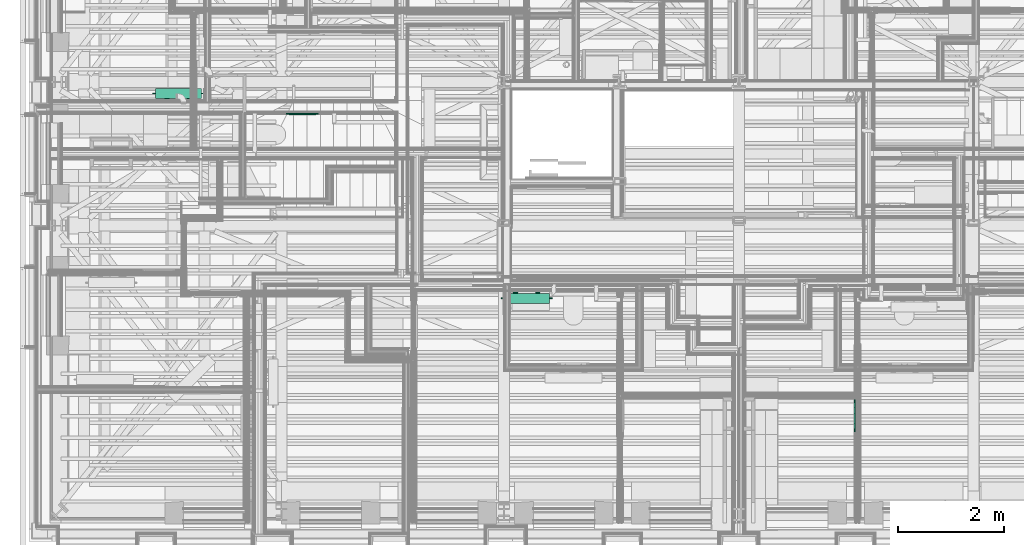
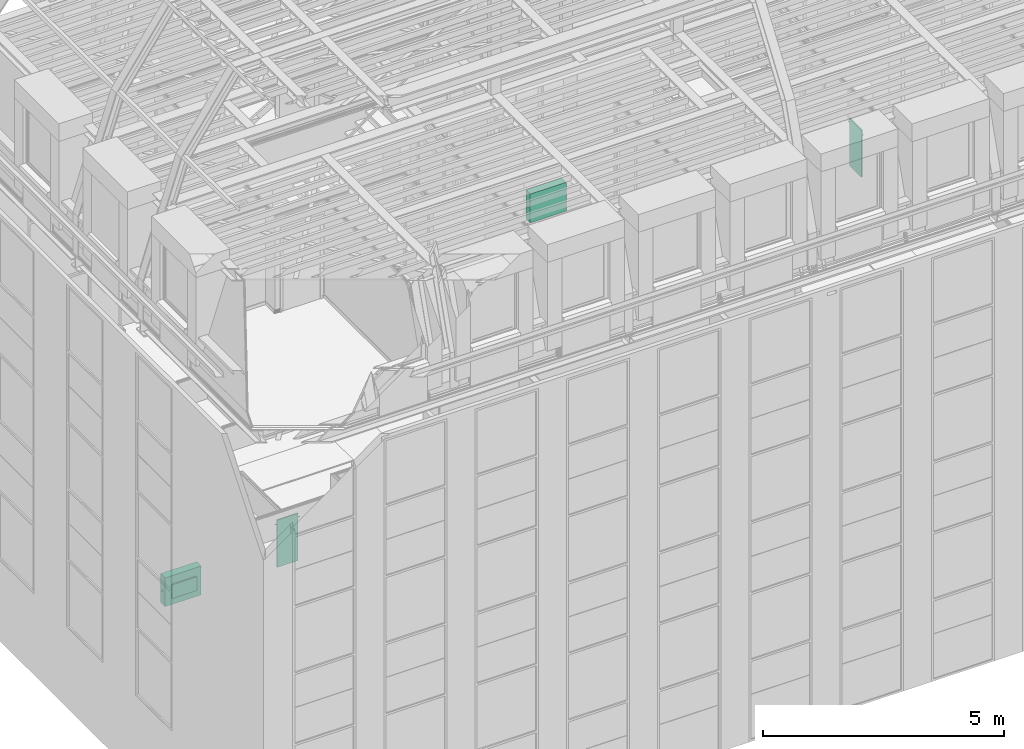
# One storey, part 161 of 183: 4 flow terminals.
"""IFC2X3 building model written with IfcOpenShell, lengths in metres."""

from ifc_helpers import new_model, entity, si_unit, converted_unit, derived_unit, money_unit, direction, frame, origin_with_axes, place, context, subcontext, project, spatial, open_shell, surface_model, material, type_object, element, save


model = new_model("IFC2X3")

# Units and contexts
model_context = context("Model", 3, precision=1e-05, world=origin_with_axes(), true_north=direction((0.0, 1.0)))
body_context = subcontext(model_context, "Body", "Model", "MODEL_VIEW", scale=1.0)
ifc_project = project(units=[si_unit("LENGTHUNIT", "METRE"), si_unit("AREAUNIT", "SQUARE_METRE"), si_unit("VOLUMEUNIT", "CUBIC_METRE"), si_unit("ABSORBEDDOSEUNIT", "GRAY"), si_unit("AMOUNTOFSUBSTANCEUNIT", "MOLE"), si_unit("DOSEEQUIVALENTUNIT", "SIEVERT"), si_unit("ELECTRICCAPACITANCEUNIT", "FARAD"), si_unit("ELECTRICCHARGEUNIT", "COULOMB"), si_unit("ELECTRICCONDUCTANCEUNIT", "SIEMENS"), si_unit("ELECTRICCURRENTUNIT", "AMPERE"), si_unit("ELECTRICRESISTANCEUNIT", "OHM"), si_unit("ELECTRICVOLTAGEUNIT", "VOLT"), si_unit("ENERGYUNIT", "JOULE"), si_unit("FORCEUNIT", "NEWTON"), si_unit("FREQUENCYUNIT", "HERTZ"), si_unit("ILLUMINANCEUNIT", "LUX"), si_unit("INDUCTANCEUNIT", "HENRY"), si_unit("LUMINOUSFLUXUNIT", "LUMEN"), si_unit("LUMINOUSINTENSITYUNIT", "CANDELA"), si_unit("MAGNETICFLUXDENSITYUNIT", "TESLA"), si_unit("MAGNETICFLUXUNIT", "WEBER"), si_unit("MASSUNIT", "GRAM"), converted_unit("PLANEANGLEUNIT", "degree", entity("IfcReal", 0.0174532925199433), si_unit("PLANEANGLEUNIT", "RADIAN"), dimensions=[0, 0, 0, 0, 0, 0, 0]), si_unit("POWERUNIT", "WATT"), si_unit("PRESSUREUNIT", "PASCAL"), si_unit("RADIOACTIVITYUNIT", "BECQUEREL"), si_unit("SOLIDANGLEUNIT", "STERADIAN"), si_unit("THERMODYNAMICTEMPERATUREUNIT", "KELVIN"), si_unit("TIMEUNIT", "SECOND"), derived_unit("ACCELERATIONUNIT", [(si_unit("LENGTHUNIT", "METRE"), 1), (si_unit("TIMEUNIT", "SECOND"), -2)]), derived_unit("ANGULARVELOCITYUNIT", [(converted_unit("PLANEANGLEUNIT", "degree", entity("IfcReal", 0.0174532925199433), si_unit("PLANEANGLEUNIT", "RADIAN"), dimensions=[0, 0, 0, 0, 0, 0, 0]), 1), (si_unit("TIMEUNIT", "SECOND"), -1)]), derived_unit("CURVATUREUNIT", [(converted_unit("PLANEANGLEUNIT", "degree", entity("IfcReal", 0.0174532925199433), si_unit("PLANEANGLEUNIT", "RADIAN"), dimensions=[0, 0, 0, 0, 0, 0, 0]), 1), (si_unit("LENGTHUNIT", "METRE"), -1)]), derived_unit("DYNAMICVISCOSITYUNIT", [(si_unit("PRESSUREUNIT", "PASCAL"), 1), (si_unit("TIMEUNIT", "SECOND"), 1)]), derived_unit("HEATFLUXDENSITYUNIT", [(si_unit("POWERUNIT", "WATT"), 1), (si_unit("LENGTHUNIT", "METRE"), -2)]), derived_unit("HEATINGVALUEUNIT", [(si_unit("ENERGYUNIT", "JOULE"), 1), (si_unit("MASSUNIT", "GRAM"), -1)]), derived_unit("INTEGERCOUNTRATEUNIT", [(si_unit("TIMEUNIT", "SECOND"), -1)]), derived_unit("IONCONCENTRATIONUNIT", [(si_unit("MASSUNIT", "GRAM"), 1), (si_unit("VOLUMEUNIT", "CUBIC_METRE"), -1)]), derived_unit("ISOTHERMALMOISTURECAPACITYUNIT", [(si_unit("VOLUMEUNIT", "CUBIC_METRE"), 1), (si_unit("MASSUNIT", "GRAM"), -1)]), derived_unit("KINEMATICVISCOSITYUNIT", [(si_unit("AREAUNIT", "SQUARE_METRE"), 1), (si_unit("TIMEUNIT", "SECOND"), -1)]), derived_unit("LINEARFORCEUNIT", [(si_unit("FORCEUNIT", "NEWTON"), 1), (si_unit("LENGTHUNIT", "METRE"), -1)]), derived_unit("LINEARMOMENTUNIT", [(si_unit("FORCEUNIT", "NEWTON"), 1), (si_unit("LENGTHUNIT", "METRE"), -1)]), derived_unit("LINEARSTIFFNESSUNIT", [(si_unit("FORCEUNIT", "NEWTON"), 1), (si_unit("LENGTHUNIT", "METRE"), -1)]), derived_unit("LINEARVELOCITYUNIT", [(si_unit("LENGTHUNIT", "METRE"), 1), (si_unit("TIMEUNIT", "SECOND"), -1)]), derived_unit("LUMINOUSINTENSITYDISTRIBUTIONUNIT", [(si_unit("LUMINOUSINTENSITYUNIT", "CANDELA"), 1), (si_unit("LUMINOUSFLUXUNIT", "LUMEN"), -1)]), derived_unit("MASSDENSITYUNIT", [(si_unit("MASSUNIT", "GRAM"), 1), (si_unit("VOLUMEUNIT", "CUBIC_METRE"), -1)]), derived_unit("MASSFLOWRATEUNIT", [(si_unit("MASSUNIT", "GRAM"), 1), (si_unit("TIMEUNIT", "SECOND"), -1)]), derived_unit("MASSPERLENGTHUNIT", [(si_unit("MASSUNIT", "GRAM"), 1), (si_unit("LENGTHUNIT", "METRE"), -1)]), derived_unit("MODULUSOFELASTICITYUNIT", [(si_unit("FORCEUNIT", "NEWTON"), 1), (si_unit("AREAUNIT", "SQUARE_METRE"), -1)]), derived_unit("MODULUSOFLINEARSUBGRADEREACTIONUNIT", [(si_unit("FORCEUNIT", "NEWTON"), 1), (si_unit("LENGTHUNIT", "METRE"), -2)]), derived_unit("MODULUSOFROTATIONALSUBGRADEREACTIONUNIT", [(si_unit("FORCEUNIT", "NEWTON"), 1), (si_unit("LENGTHUNIT", "METRE"), 1)]), derived_unit("MODULUSOFSUBGRADEREACTIONUNIT", [(si_unit("FORCEUNIT", "NEWTON"), 1), (si_unit("VOLUMEUNIT", "CUBIC_METRE"), -1)]), derived_unit("MOISTUREDIFFUSIVITYUNIT", [(si_unit("VOLUMEUNIT", "CUBIC_METRE"), 1), (si_unit("TIMEUNIT", "SECOND"), -1)]), derived_unit("MOLECULARWEIGHTUNIT", [(si_unit("MASSUNIT", "GRAM"), 1), (si_unit("AMOUNTOFSUBSTANCEUNIT", "MOLE"), -1)]), derived_unit("PLANARFORCEUNIT", [(si_unit("FORCEUNIT", "NEWTON"), 1), (si_unit("LENGTHUNIT", "METRE"), -2)]), derived_unit("ROTATIONALFREQUENCYUNIT", [(si_unit("TIMEUNIT", "SECOND"), -1)]), derived_unit("ROTATIONALMASSUNIT", [(si_unit("MASSUNIT", "GRAM"), 1), (si_unit("LENGTHUNIT", "METRE"), 2)]), derived_unit("ROTATIONALSTIFFNESSUNIT", [(si_unit("FORCEUNIT", "NEWTON"), 1), (si_unit("LENGTHUNIT", "METRE"), 1), (converted_unit("PLANEANGLEUNIT", "degree", entity("IfcReal", 0.0174532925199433), si_unit("PLANEANGLEUNIT", "RADIAN"), dimensions=[0, 0, 0, 0, 0, 0, 0]), -1)]), derived_unit("SECTIONAREAINTEGRALUNIT", [(si_unit("LENGTHUNIT", "METRE"), 5)]), derived_unit("SECTIONMODULUSUNIT", [(si_unit("LENGTHUNIT", "METRE"), 3)]), derived_unit("SHEARMODULUSUNIT", [(si_unit("FORCEUNIT", "NEWTON"), 1), (si_unit("AREAUNIT", "SQUARE_METRE"), -1)]), derived_unit("SOUNDPOWERUNIT", [(si_unit("ENERGYUNIT", "JOULE"), 1), (si_unit("TIMEUNIT", "SECOND"), -1)]), derived_unit("SPECIFICHEATCAPACITYUNIT", [(si_unit("FORCEUNIT", "NEWTON"), 1), (si_unit("MASSUNIT", "GRAM"), -1), (si_unit("THERMODYNAMICTEMPERATUREUNIT", "KELVIN"), -1)]), derived_unit("TEMPERATUREGRADIENTUNIT", [(si_unit("THERMODYNAMICTEMPERATUREUNIT", "KELVIN"), 1), (si_unit("LENGTHUNIT", "METRE"), -1)]), derived_unit("THERMALADMITTANCEUNIT", [(si_unit("POWERUNIT", "WATT"), 1), (si_unit("AREAUNIT", "SQUARE_METRE"), -1), (si_unit("THERMODYNAMICTEMPERATUREUNIT", "KELVIN"), -1)]), derived_unit("THERMALCONDUCTANCEUNIT", [(si_unit("POWERUNIT", "WATT"), 1), (si_unit("LENGTHUNIT", "METRE"), -1), (si_unit("THERMODYNAMICTEMPERATUREUNIT", "KELVIN"), -1)]), derived_unit("THERMALEXPANSIONCOEFFICIENTUNIT", [(si_unit("THERMODYNAMICTEMPERATUREUNIT", "KELVIN"), -1)]), derived_unit("THERMALRESISTANCEUNIT", [(si_unit("AREAUNIT", "SQUARE_METRE"), 1), (si_unit("POWERUNIT", "WATT"), -1)]), derived_unit("THERMALTRANSMITTANCEUNIT", [(si_unit("POWERUNIT", "WATT"), 1), (si_unit("AREAUNIT", "SQUARE_METRE"), -1), (si_unit("THERMODYNAMICTEMPERATUREUNIT", "KELVIN"), -1)]), derived_unit("TORQUEUNIT", [(si_unit("FORCEUNIT", "NEWTON"), 1), (si_unit("LENGTHUNIT", "METRE"), 1)]), derived_unit("VAPORPERMEABILITYUNIT", [(si_unit("MASSUNIT", "GRAM"), 1), (si_unit("TIMEUNIT", "SECOND"), -1)]), derived_unit("VOLUMETRICFLOWRATEUNIT", [(si_unit("VOLUMEUNIT", "CUBIC_METRE"), 1), (si_unit("TIMEUNIT", "SECOND"), -1)]), derived_unit("WARPINGCONSTANTUNIT", [(si_unit("LENGTHUNIT", "METRE"), 6)]), derived_unit("WARPINGMOMENTUNIT", [(si_unit("FORCEUNIT", "NEWTON"), 1), (si_unit("LENGTHUNIT", "METRE"), 2)]), money_unit("GBP")], contexts=[model_context])

# Site, building, storey, space
site_placement = place(None, origin_with_axes())
site = spatial("IfcSite", under=ifc_project, at=site_placement, Name="Site", CompositionType="ELEMENT")
building_placement = place(site_placement, origin_with_axes())
building = spatial("IfcBuilding", under=site, at=building_placement, Name="Building01", CompositionType="ELEMENT")
storey_placement = place(building_placement, frame((0.0, 0.0, 5.15), z_axis=(0.0, 0.0, 1.0), x_axis=(1.0, 0.0, 0.0)))
storey = spatial("IfcBuildingStorey", under=building, at=storey_placement, Name="1F", CompositionType="ELEMENT", Elevation=5.15)
space_1_placement = place(storey_placement, frame((7.064669, 14.582, 0.017975), z_axis=(0.0, 0.0, 1.0), x_axis=(-1.0, 0.0, 0.0)))
space_1 = spatial("IfcSpace", under=storey, at=space_1_placement, Name="07", CompositionType="ELEMENT", InteriorOrExteriorSpace="NOTDEFINED")

# Flow terminal
ifc_material = material(Name="M_BSUK_Ventilation")
space_heater_type_1 = type_object("IfcSpaceHeaterType", Name="M-BmvRadiatorpanel-Panel", PredefinedType="NOTDEFINED")
flow_terminal_1_placement = place(storey_placement, frame((2.540669, 8.58092, 0.665), z_axis=(0.0, 0.0, 1.0), x_axis=(-1.0, 0.0, 0.0)))
element("IfcFlowTerminal", 1, at=flow_terminal_1_placement, inside=space_1, type_object=space_heater_type_1, material=ifc_material, Name="M-BmvRadiatorpanel-Panel", ObjectType="M-BmvRadiatorpanel-Panel", context=body_context, shape_type="SurfaceModel", body=[
    surface_model("IfcShellBasedSurfaceModel", [(-0.865, -0.0925, 0.365), (-0.865, 0.0925, 0.365), (0.0, 0.0925, 0.365), (0.0, -0.0925, 0.365), (-0.865, -0.0925, -0.365), (-0.865, 0.0925, -0.365), (0.0, -0.0925, -0.365), (0.0, 0.0925, -0.365), (-0.1325, 0.12025, 0.175), (-0.7325, 0.12025, 0.175), (-0.7325, 0.14525, 0.175), (-0.1325, 0.14525, 0.175), (-0.7325, 0.14525, -0.175), (-0.1325, 0.14525, -0.175), (-0.7325, 0.12025, -0.175), (-0.1325, 0.12025, -0.175), (-0.2225, 0.0925, 0.0775), (-0.2225, 0.12025, 0.0775), (-0.205279, 0.12025, 0.080925), (-0.205279, 0.0925, 0.080925), (-0.19068, 0.12025, 0.09068), (-0.19068, 0.0925, 0.09068), (-0.180925, 0.12025, 0.105279), (-0.180925, 0.0925, 0.105279), (-0.1775, 0.12025, 0.1225), (-0.1775, 0.0925, 0.1225), (-0.180925, 0.12025, 0.139721), (-0.180925, 0.0925, 0.139721), (-0.19068, 0.12025, 0.15432), (-0.19068, 0.0925, 0.15432), (-0.205279, 0.12025, 0.164075), (-0.205279, 0.0925, 0.164075), (-0.2225, 0.12025, 0.1675), (-0.2225, 0.0925, 0.1675), (-0.239721, 0.12025, 0.164075), (-0.239721, 0.0925, 0.164075), (-0.25432, 0.12025, 0.15432), (-0.25432, 0.0925, 0.15432), (-0.264075, 0.12025, 0.139721), (-0.264075, 0.0925, 0.139721), (-0.2675, 0.12025, 0.1225), (-0.2675, 0.0925, 0.1225), (-0.264075, 0.12025, 0.105279), (-0.264075, 0.0925, 0.105279), (-0.25432, 0.12025, 0.09068), (-0.25432, 0.0925, 0.09068), (-0.239721, 0.12025, 0.080925), (-0.239721, 0.0925, 0.080925), (-0.6425, 0.0925, 0.0775), (-0.6425, 0.12025, 0.0775), (-0.625279, 0.12025, 0.080925), (-0.625279, 0.0925, 0.080925), (-0.61068, 0.12025, 0.09068), (-0.61068, 0.0925, 0.09068), (-0.600925, 0.12025, 0.105279), (-0.600925, 0.0925, 0.105279), (-0.5975, 0.12025, 0.1225), (-0.5975, 0.0925, 0.1225), (-0.600925, 0.12025, 0.139721), (-0.600925, 0.0925, 0.139721), (-0.61068, 0.12025, 0.15432), (-0.61068, 0.0925, 0.15432), (-0.625279, 0.12025, 0.164075), (-0.625279, 0.0925, 0.164075), (-0.6425, 0.12025, 0.1675), (-0.6425, 0.0925, 0.1675), (-0.659721, 0.12025, 0.164075), (-0.659721, 0.0925, 0.164075), (-0.67432, 0.12025, 0.15432), (-0.67432, 0.0925, 0.15432), (-0.684075, 0.12025, 0.139721), (-0.684075, 0.0925, 0.139721), (-0.6875, 0.12025, 0.1225), (-0.6875, 0.0925, 0.1225), (-0.684075, 0.12025, 0.105279), (-0.684075, 0.0925, 0.105279), (-0.67432, 0.12025, 0.09068), (-0.67432, 0.0925, 0.09068), (-0.659721, 0.12025, 0.080925), (-0.659721, 0.0925, 0.080925), (0.05, 0.0, -0.0225), (0.0, 0.0, -0.0225), (0.0, 0.004784, -0.021548), (0.05, 0.004784, -0.021548), (0.0, 0.008839, -0.018839), (0.05, 0.008839, -0.018839), (0.0, 0.011548, -0.014784), (0.05, 0.011548, -0.014784), (0.0, 0.0125, -0.01), (0.05, 0.0125, -0.01), (0.0, 0.011548, -0.005216), (0.05, 0.011548, -0.005216), (0.0, 0.008839, -0.001161), (0.05, 0.008839, -0.001161), (0.0, 0.004784, 0.001548), (0.05, 0.004784, 0.001548), (0.0, 0.0, 0.0025), (0.05, 0.0, 0.0025), (0.0, -0.004784, 0.001548), (0.05, -0.004784, 0.001548), (0.0, -0.008839, -0.001161), (0.05, -0.008839, -0.001161), (0.0, -0.011548, -0.005216), (0.05, -0.011548, -0.005216), (0.0, -0.0125, -0.01), (0.05, -0.0125, -0.01), (0.0, -0.011548, -0.014784), (0.05, -0.011548, -0.014784), (0.0, -0.008839, -0.018839), (0.05, -0.008839, -0.018839), (0.0, -0.004784, -0.021548), (0.05, -0.004784, -0.021548), (-0.915, 0.0, 0.2525), (-0.865, 0.0, 0.2525), (-0.865, -0.004784, 0.253452), (-0.915, -0.004784, 0.253452), (-0.865, -0.008839, 0.256161), (-0.915, -0.008839, 0.256161), (-0.865, -0.011548, 0.260216), (-0.915, -0.011548, 0.260216), (-0.865, -0.0125, 0.265), (-0.915, -0.0125, 0.265), (-0.865, -0.011548, 0.269784), (-0.915, -0.011548, 0.269784), (-0.865, -0.008839, 0.273839), (-0.915, -0.008839, 0.273839), (-0.865, -0.004784, 0.276548), (-0.915, -0.004784, 0.276548), (-0.865, 0.0, 0.2775), (-0.915, 0.0, 0.2775), (-0.865, 0.004784, 0.276548), (-0.915, 0.004784, 0.276548), (-0.865, 0.008839, 0.273839), (-0.915, 0.008839, 0.273839), (-0.865, 0.011548, 0.269784), (-0.915, 0.011548, 0.269784), (-0.865, 0.0125, 0.265), (-0.915, 0.0125, 0.265), (-0.865, 0.011548, 0.260216), (-0.915, 0.011548, 0.260216), (-0.865, 0.008839, 0.256161), (-0.915, 0.008839, 0.256161), (-0.865, 0.004784, 0.253452), (-0.915, 0.004784, 0.253452)], [open_shell([[[0, 1, 2, 3]], [[4, 5, 1, 0]], [[6, 7, 5, 4]], [[3, 2, 7, 6]], [[1, 5, 7, 2]], [[3, 6, 4, 0]], [[8, 9, 10, 11]], [[11, 10, 12, 13]], [[13, 12, 14, 15]], [[15, 14, 9, 8]], [[9, 14, 12, 10]], [[11, 13, 15, 8]], [[16, 17, 18, 19]], [[19, 18, 20, 21]], [[21, 20, 22, 23]], [[23, 22, 24, 25]], [[25, 24, 26, 27]], [[27, 26, 28, 29]], [[29, 28, 30, 31]], [[31, 30, 32, 33]], [[33, 32, 34, 35]], [[35, 34, 36, 37]], [[37, 36, 38, 39]], [[39, 38, 40, 41]], [[41, 40, 42, 43]], [[43, 42, 44, 45]], [[45, 44, 46, 47]], [[47, 46, 17, 16]], [[48, 49, 50, 51]], [[51, 50, 52, 53]], [[53, 52, 54, 55]], [[55, 54, 56, 57]], [[57, 56, 58, 59]], [[59, 58, 60, 61]], [[61, 60, 62, 63]], [[63, 62, 64, 65]], [[65, 64, 66, 67]], [[67, 66, 68, 69]], [[69, 68, 70, 71]], [[71, 70, 72, 73]], [[73, 72, 74, 75]], [[75, 74, 76, 77]], [[77, 76, 78, 79]], [[79, 78, 49, 48]], [[80, 81, 82, 83]], [[83, 82, 84, 85]], [[85, 84, 86, 87]], [[87, 86, 88, 89]], [[89, 88, 90, 91]], [[91, 90, 92, 93]], [[93, 92, 94, 95]], [[95, 94, 96, 97]], [[97, 96, 98, 99]], [[99, 98, 100, 101]], [[101, 100, 102, 103]], [[103, 102, 104, 105]], [[105, 104, 106, 107]], [[107, 106, 108, 109]], [[109, 108, 110, 111]], [[111, 110, 81, 80]], [[112, 113, 114, 115]], [[115, 114, 116, 117]], [[117, 116, 118, 119]], [[119, 118, 120, 121]], [[121, 120, 122, 123]], [[123, 122, 124, 125]], [[125, 124, 126, 127]], [[127, 126, 128, 129]], [[129, 128, 130, 131]], [[131, 130, 132, 133]], [[133, 132, 134, 135]], [[135, 134, 136, 137]], [[137, 136, 138, 139]], [[139, 138, 140, 141]], [[141, 140, 142, 143]], [[143, 142, 113, 112]]])]),
])

# Space
space_2_placement = place(storey_placement, frame((12.175, 4.189428, 9.81), z_axis=(0.0, 0.0, 1.0), x_axis=(0.0, 1.0, 0.0)))
space_2 = spatial("IfcSpace", under=storey, at=space_2_placement, Name="25", CompositionType="ELEMENT", InteriorOrExteriorSpace="NOTDEFINED")

# Flow terminal
flow_terminal_2_placement = place(storey_placement, frame((9.0825, 4.73475, 10.445), z_axis=(0.0, 0.0, 1.0), x_axis=(1.0, 0.0, 0.0)))
element("IfcFlowTerminal", 2, at=flow_terminal_2_placement, inside=space_2, type_object=space_heater_type_1, material=ifc_material, Name="M-BmvRadiatorpanel-Panel", ObjectType="M-BmvRadiatorpanel-Panel", context=body_context, shape_type="SurfaceModel", body=[
    surface_model("IfcShellBasedSurfaceModel", [(0.865, -0.0925, 0.365), (0.865, 0.0925, 0.365), (0.0, 0.0925, 0.365), (0.0, -0.0925, 0.365), (0.865, -0.0925, -0.365), (0.865, 0.0925, -0.365), (0.0, -0.0925, -0.365), (0.0, 0.0925, -0.365), (0.1325, 0.12025, 0.175), (0.7325, 0.12025, 0.175), (0.7325, 0.14525, 0.175), (0.1325, 0.14525, 0.175), (0.7325, 0.14525, -0.175), (0.1325, 0.14525, -0.175), (0.7325, 0.12025, -0.175), (0.1325, 0.12025, -0.175), (0.2225, 0.0925, 0.0775), (0.2225, 0.12025, 0.0775), (0.239721, 0.12025, 0.080925), (0.239721, 0.0925, 0.080925), (0.25432, 0.12025, 0.09068), (0.25432, 0.0925, 0.09068), (0.264075, 0.12025, 0.105279), (0.264075, 0.0925, 0.105279), (0.2675, 0.12025, 0.1225), (0.2675, 0.0925, 0.1225), (0.264075, 0.12025, 0.139721), (0.264075, 0.0925, 0.139721), (0.25432, 0.12025, 0.15432), (0.25432, 0.0925, 0.15432), (0.239721, 0.12025, 0.164075), (0.239721, 0.0925, 0.164075), (0.2225, 0.12025, 0.1675), (0.2225, 0.0925, 0.1675), (0.205279, 0.12025, 0.164075), (0.205279, 0.0925, 0.164075), (0.19068, 0.12025, 0.15432), (0.19068, 0.0925, 0.15432), (0.180925, 0.12025, 0.139721), (0.180925, 0.0925, 0.139721), (0.1775, 0.12025, 0.1225), (0.1775, 0.0925, 0.1225), (0.180925, 0.12025, 0.105279), (0.180925, 0.0925, 0.105279), (0.19068, 0.12025, 0.09068), (0.19068, 0.0925, 0.09068), (0.205279, 0.12025, 0.080925), (0.205279, 0.0925, 0.080925), (0.6425, 0.0925, 0.0775), (0.6425, 0.12025, 0.0775), (0.659721, 0.12025, 0.080925), (0.659721, 0.0925, 0.080925), (0.67432, 0.12025, 0.09068), (0.67432, 0.0925, 0.09068), (0.684075, 0.12025, 0.105279), (0.684075, 0.0925, 0.105279), (0.6875, 0.12025, 0.1225), (0.6875, 0.0925, 0.1225), (0.684075, 0.12025, 0.139721), (0.684075, 0.0925, 0.139721), (0.67432, 0.12025, 0.15432), (0.67432, 0.0925, 0.15432), (0.659721, 0.12025, 0.164075), (0.659721, 0.0925, 0.164075), (0.6425, 0.12025, 0.1675), (0.6425, 0.0925, 0.1675), (0.625279, 0.12025, 0.164075), (0.625279, 0.0925, 0.164075), (0.61068, 0.12025, 0.15432), (0.61068, 0.0925, 0.15432), (0.600925, 0.12025, 0.139721), (0.600925, 0.0925, 0.139721), (0.5975, 0.12025, 0.1225), (0.5975, 0.0925, 0.1225), (0.600925, 0.12025, 0.105279), (0.600925, 0.0925, 0.105279), (0.61068, 0.12025, 0.09068), (0.61068, 0.0925, 0.09068), (0.625279, 0.12025, 0.080925), (0.625279, 0.0925, 0.080925), (-0.05, 0.0, -0.0225), (0.0, 0.0, -0.0225), (0.0, -0.004784, -0.021548), (-0.05, -0.004784, -0.021548), (0.0, -0.008839, -0.018839), (-0.05, -0.008839, -0.018839), (0.0, -0.011548, -0.014784), (-0.05, -0.011548, -0.014784), (0.0, -0.0125, -0.01), (-0.05, -0.0125, -0.01), (0.0, -0.011548, -0.005216), (-0.05, -0.011548, -0.005216), (0.0, -0.008839, -0.001161), (-0.05, -0.008839, -0.001161), (0.0, -0.004784, 0.001548), (-0.05, -0.004784, 0.001548), (0.0, 0.0, 0.0025), (-0.05, 0.0, 0.0025), (0.0, 0.004784, 0.001548), (-0.05, 0.004784, 0.001548), (0.0, 0.008839, -0.001161), (-0.05, 0.008839, -0.001161), (0.0, 0.011548, -0.005216), (-0.05, 0.011548, -0.005216), (0.0, 0.0125, -0.01), (-0.05, 0.0125, -0.01), (0.0, 0.011548, -0.014784), (-0.05, 0.011548, -0.014784), (0.0, 0.008839, -0.018839), (-0.05, 0.008839, -0.018839), (0.0, 0.004784, -0.021548), (-0.05, 0.004784, -0.021548), (0.915, 0.0, 0.2525), (0.865, 0.0, 0.2525), (0.865, 0.004784, 0.253452), (0.915, 0.004784, 0.253452), (0.865, 0.008839, 0.256161), (0.915, 0.008839, 0.256161), (0.865, 0.011548, 0.260216), (0.915, 0.011548, 0.260216), (0.865, 0.0125, 0.265), (0.915, 0.0125, 0.265), (0.865, 0.011548, 0.269784), (0.915, 0.011548, 0.269784), (0.865, 0.008839, 0.273839), (0.915, 0.008839, 0.273839), (0.865, 0.004784, 0.276548), (0.915, 0.004784, 0.276548), (0.865, 0.0, 0.2775), (0.915, 0.0, 0.2775), (0.865, -0.004784, 0.276548), (0.915, -0.004784, 0.276548), (0.865, -0.008839, 0.273839), (0.915, -0.008839, 0.273839), (0.865, -0.011548, 0.269784), (0.915, -0.011548, 0.269784), (0.865, -0.0125, 0.265), (0.915, -0.0125, 0.265), (0.865, -0.011548, 0.260216), (0.915, -0.011548, 0.260216), (0.865, -0.008839, 0.256161), (0.915, -0.008839, 0.256161), (0.865, -0.004784, 0.253452), (0.915, -0.004784, 0.253452)], [open_shell([[[0, 1, 2, 3]], [[4, 5, 1, 0]], [[6, 7, 5, 4]], [[3, 2, 7, 6]], [[1, 5, 7, 2]], [[3, 6, 4, 0]], [[8, 9, 10, 11]], [[11, 10, 12, 13]], [[13, 12, 14, 15]], [[15, 14, 9, 8]], [[9, 14, 12, 10]], [[11, 13, 15, 8]], [[16, 17, 18, 19]], [[19, 18, 20, 21]], [[21, 20, 22, 23]], [[23, 22, 24, 25]], [[25, 24, 26, 27]], [[27, 26, 28, 29]], [[29, 28, 30, 31]], [[31, 30, 32, 33]], [[33, 32, 34, 35]], [[35, 34, 36, 37]], [[37, 36, 38, 39]], [[39, 38, 40, 41]], [[41, 40, 42, 43]], [[43, 42, 44, 45]], [[45, 44, 46, 47]], [[47, 46, 17, 16]], [[48, 49, 50, 51]], [[51, 50, 52, 53]], [[53, 52, 54, 55]], [[55, 54, 56, 57]], [[57, 56, 58, 59]], [[59, 58, 60, 61]], [[61, 60, 62, 63]], [[63, 62, 64, 65]], [[65, 64, 66, 67]], [[67, 66, 68, 69]], [[69, 68, 70, 71]], [[71, 70, 72, 73]], [[73, 72, 74, 75]], [[75, 74, 76, 77]], [[77, 76, 78, 79]], [[79, 78, 49, 48]], [[80, 81, 82, 83]], [[83, 82, 84, 85]], [[85, 84, 86, 87]], [[87, 86, 88, 89]], [[89, 88, 90, 91]], [[91, 90, 92, 93]], [[93, 92, 94, 95]], [[95, 94, 96, 97]], [[97, 96, 98, 99]], [[99, 98, 100, 101]], [[101, 100, 102, 103]], [[103, 102, 104, 105]], [[105, 104, 106, 107]], [[107, 106, 108, 109]], [[109, 108, 110, 111]], [[111, 110, 81, 80]], [[112, 113, 114, 115]], [[115, 114, 116, 117]], [[117, 116, 118, 119]], [[119, 118, 120, 121]], [[121, 120, 122, 123]], [[123, 122, 124, 125]], [[125, 124, 126, 127]], [[127, 126, 128, 129]], [[129, 128, 130, 131]], [[131, 130, 132, 133]], [[133, 132, 134, 135]], [[135, 134, 136, 137]], [[137, 136, 138, 139]], [[139, 138, 140, 141]], [[141, 140, 142, 143]], [[143, 142, 113, 112]]])]),
])

# Space
space_3_placement = place(storey_placement, frame((4.24073, 6.606475, 0.017975), z_axis=(0.0, 0.0, 1.0), x_axis=(1.0, 0.0, 0.0)))
space_3 = spatial("IfcSpace", under=storey, at=space_3_placement, Name="bath", CompositionType="ELEMENT", InteriorOrExteriorSpace="NOTDEFINED")

# Flow terminal
space_heater_type_2 = type_object("IfcSpaceHeaterType", Name="M-BmvRadiator-Column", PredefinedType="NOTDEFINED")
flow_terminal_3_placement = place(storey_placement, frame((5.054088, 8.19817, 1.2), z_axis=(0.0, 0.0, 1.0), x_axis=(1.0, 0.0, 0.0)))
element("IfcFlowTerminal", 3, at=flow_terminal_3_placement, inside=space_3, type_object=space_heater_type_2, material=ifc_material, Name="M-BmvRadiator-Column", ObjectType="M-BmvRadiator-Column", context=body_context, shape_type="SurfaceModel", body=[
    surface_model("IfcShellBasedSurfaceModel", [(0.0, -0.0125, 0.6), (0.0, -0.0125, -0.6), (0.0, 0.0125, -0.6), (0.0, 0.0125, 0.6), (0.5, -0.0125, 0.6), (0.5, -0.0125, -0.6), (0.5, 0.0125, -0.6), (0.5, 0.0125, 0.6), (0.1, 0.0125, 0.6), (0.1, -0.0125, 0.6), (0.1, -0.0125, -0.6), (0.1, 0.0125, -0.6), (0.2, 0.0125, 0.6), (0.2, -0.0125, 0.6), (0.2, -0.0125, -0.6), (0.2, 0.0125, -0.6), (0.3, 0.0125, 0.6), (0.3, -0.0125, 0.6), (0.3, -0.0125, -0.6), (0.3, 0.0125, -0.6), (0.4, 0.0125, 0.6), (0.4, -0.0125, 0.6), (0.4, -0.0125, -0.6), (0.4, 0.0125, -0.6), (-0.05, 0.0, 0.4825), (0.0, 0.0, 0.4825), (0.0, -0.003827, 0.483261), (-0.05, -0.003827, 0.483261), (0.0, -0.007071, 0.485429), (-0.05, -0.007071, 0.485429), (0.0, -0.009239, 0.488673), (-0.05, -0.009239, 0.488673), (0.0, -0.01, 0.4925), (-0.05, -0.01, 0.4925), (0.0, -0.009239, 0.496327), (-0.05, -0.009239, 0.496327), (0.0, -0.007071, 0.499571), (-0.05, -0.007071, 0.499571), (0.0, -0.003827, 0.501739), (-0.05, -0.003827, 0.501739), (0.0, 0.0, 0.5025), (-0.05, 0.0, 0.5025), (0.0, 0.003827, 0.501739), (-0.05, 0.003827, 0.501739), (0.0, 0.007071, 0.499571), (-0.05, 0.007071, 0.499571), (0.0, 0.009239, 0.496327), (-0.05, 0.009239, 0.496327), (0.0, 0.01, 0.4925), (-0.05, 0.01, 0.4925), (0.0, 0.009239, 0.488673), (-0.05, 0.009239, 0.488673), (0.0, 0.007071, 0.485429), (-0.05, 0.007071, 0.485429), (0.0, 0.003827, 0.483261), (-0.05, 0.003827, 0.483261), (0.55, 0.0, 0.4884), (0.5, 0.0, 0.4884), (0.5, 0.003827, 0.489161), (0.55, 0.003827, 0.489161), (0.5, 0.007071, 0.491329), (0.55, 0.007071, 0.491329), (0.5, 0.009239, 0.494573), (0.55, 0.009239, 0.494573), (0.5, 0.01, 0.4984), (0.55, 0.01, 0.4984), (0.5, 0.009239, 0.502227), (0.55, 0.009239, 0.502227), (0.5, 0.007071, 0.505471), (0.55, 0.007071, 0.505471), (0.5, 0.003827, 0.507639), (0.55, 0.003827, 0.507639), (0.5, 0.0, 0.5084), (0.55, 0.0, 0.5084), (0.5, -0.003827, 0.507639), (0.55, -0.003827, 0.507639), (0.5, -0.007071, 0.505471), (0.55, -0.007071, 0.505471), (0.5, -0.009239, 0.502227), (0.55, -0.009239, 0.502227), (0.5, -0.01, 0.4984), (0.55, -0.01, 0.4984), (0.5, -0.009239, 0.494573), (0.55, -0.009239, 0.494573), (0.5, -0.007071, 0.491329), (0.55, -0.007071, 0.491329), (0.5, -0.003827, 0.489161), (0.55, -0.003827, 0.489161)], [open_shell([[[0, 1, 2, 3]], [[4, 5, 6, 7]], [[8, 3, 0, 9]], [[9, 0, 1, 10]], [[10, 1, 2, 11]], [[11, 2, 3, 8]], [[12, 8, 9, 13]], [[13, 9, 10, 14]], [[14, 10, 11, 15]], [[15, 11, 8, 12]], [[16, 12, 13, 17]], [[17, 13, 14, 18]], [[18, 14, 15, 19]], [[19, 15, 12, 16]], [[20, 16, 17, 21]], [[21, 17, 18, 22]], [[22, 18, 19, 23]], [[23, 19, 16, 20]], [[7, 20, 21, 4]], [[4, 21, 22, 5]], [[5, 22, 23, 6]], [[6, 23, 20, 7]], [[24, 25, 26, 27]], [[27, 26, 28, 29]], [[29, 28, 30, 31]], [[31, 30, 32, 33]], [[33, 32, 34, 35]], [[35, 34, 36, 37]], [[37, 36, 38, 39]], [[39, 38, 40, 41]], [[41, 40, 42, 43]], [[43, 42, 44, 45]], [[45, 44, 46, 47]], [[47, 46, 48, 49]], [[49, 48, 50, 51]], [[51, 50, 52, 53]], [[53, 52, 54, 55]], [[55, 54, 25, 24]], [[56, 57, 58, 59]], [[59, 58, 60, 61]], [[61, 60, 62, 63]], [[63, 62, 64, 65]], [[65, 64, 66, 67]], [[67, 66, 68, 69]], [[69, 68, 70, 71]], [[71, 70, 72, 73]], [[73, 72, 74, 75]], [[75, 74, 76, 77]], [[77, 76, 78, 79]], [[79, 78, 80, 81]], [[81, 80, 82, 83]], [[83, 82, 84, 85]], [[85, 84, 86, 87]], [[87, 86, 57, 56]]])]),
])

# Space
space_4_placement = place(storey_placement, frame((15.69, 2.869761, 9.81), z_axis=(0.0, 0.0, 1.0), x_axis=(-1.0, 0.0, 0.0)))
space_4 = spatial("IfcSpace", under=storey, at=space_4_placement, Name="ensuite", CompositionType="ELEMENT", InteriorOrExteriorSpace="NOTDEFINED")

# Flow terminal
flow_terminal_4_placement = place(storey_placement, frame((15.6775, 2.780835, 10.965), z_axis=(0.0, 0.0, 1.0), x_axis=(0.0, -1.0, 0.0)))
element("IfcFlowTerminal", 4, at=flow_terminal_4_placement, inside=space_4, type_object=space_heater_type_2, material=ifc_material, Name="M-BmvRadiator-Column", ObjectType="M-BmvRadiator-Column", context=body_context, shape_type="SurfaceModel", body=[
    surface_model("IfcShellBasedSurfaceModel", [(0.0, -0.0125, 0.6), (0.0, -0.0125, -0.6), (0.0, 0.0125, -0.6), (0.0, 0.0125, 0.6), (0.5, -0.0125, 0.6), (0.5, -0.0125, -0.6), (0.5, 0.0125, -0.6), (0.5, 0.0125, 0.6), (0.1, 0.0125, 0.6), (0.1, -0.0125, 0.6), (0.1, -0.0125, -0.6), (0.1, 0.0125, -0.6), (0.2, 0.0125, 0.6), (0.2, -0.0125, 0.6), (0.2, -0.0125, -0.6), (0.2, 0.0125, -0.6), (0.3, 0.0125, 0.6), (0.3, -0.0125, 0.6), (0.3, -0.0125, -0.6), (0.3, 0.0125, -0.6), (0.4, 0.0125, 0.6), (0.4, -0.0125, 0.6), (0.4, -0.0125, -0.6), (0.4, 0.0125, -0.6), (-0.05, 0.0, 0.4825), (0.0, 0.0, 0.4825), (0.0, -0.003827, 0.483261), (-0.05, -0.003827, 0.483261), (0.0, -0.007071, 0.485429), (-0.05, -0.007071, 0.485429), (0.0, -0.009239, 0.488673), (-0.05, -0.009239, 0.488673), (0.0, -0.01, 0.4925), (-0.05, -0.01, 0.4925), (0.0, -0.009239, 0.496327), (-0.05, -0.009239, 0.496327), (0.0, -0.007071, 0.499571), (-0.05, -0.007071, 0.499571), (0.0, -0.003827, 0.501739), (-0.05, -0.003827, 0.501739), (0.0, 0.0, 0.5025), (-0.05, 0.0, 0.5025), (0.0, 0.003827, 0.501739), (-0.05, 0.003827, 0.501739), (0.0, 0.007071, 0.499571), (-0.05, 0.007071, 0.499571), (0.0, 0.009239, 0.496327), (-0.05, 0.009239, 0.496327), (0.0, 0.01, 0.4925), (-0.05, 0.01, 0.4925), (0.0, 0.009239, 0.488673), (-0.05, 0.009239, 0.488673), (0.0, 0.007071, 0.485429), (-0.05, 0.007071, 0.485429), (0.0, 0.003827, 0.483261), (-0.05, 0.003827, 0.483261), (0.55, 0.0, 0.4884), (0.5, 0.0, 0.4884), (0.5, 0.003827, 0.489161), (0.55, 0.003827, 0.489161), (0.5, 0.007071, 0.491329), (0.55, 0.007071, 0.491329), (0.5, 0.009239, 0.494573), (0.55, 0.009239, 0.494573), (0.5, 0.01, 0.4984), (0.55, 0.01, 0.4984), (0.5, 0.009239, 0.502227), (0.55, 0.009239, 0.502227), (0.5, 0.007071, 0.505471), (0.55, 0.007071, 0.505471), (0.5, 0.003827, 0.507639), (0.55, 0.003827, 0.507639), (0.5, 0.0, 0.5084), (0.55, 0.0, 0.5084), (0.5, -0.003827, 0.507639), (0.55, -0.003827, 0.507639), (0.5, -0.007071, 0.505471), (0.55, -0.007071, 0.505471), (0.5, -0.009239, 0.502227), (0.55, -0.009239, 0.502227), (0.5, -0.01, 0.4984), (0.55, -0.01, 0.4984), (0.5, -0.009239, 0.494573), (0.55, -0.009239, 0.494573), (0.5, -0.007071, 0.491329), (0.55, -0.007071, 0.491329), (0.5, -0.003827, 0.489161), (0.55, -0.003827, 0.489161)], [open_shell([[[0, 1, 2, 3]], [[4, 5, 6, 7]], [[8, 3, 0, 9]], [[9, 0, 1, 10]], [[10, 1, 2, 11]], [[11, 2, 3, 8]], [[12, 8, 9, 13]], [[13, 9, 10, 14]], [[14, 10, 11, 15]], [[15, 11, 8, 12]], [[16, 12, 13, 17]], [[17, 13, 14, 18]], [[18, 14, 15, 19]], [[19, 15, 12, 16]], [[20, 16, 17, 21]], [[21, 17, 18, 22]], [[22, 18, 19, 23]], [[23, 19, 16, 20]], [[7, 20, 21, 4]], [[4, 21, 22, 5]], [[5, 22, 23, 6]], [[6, 23, 20, 7]], [[24, 25, 26, 27]], [[27, 26, 28, 29]], [[29, 28, 30, 31]], [[31, 30, 32, 33]], [[33, 32, 34, 35]], [[35, 34, 36, 37]], [[37, 36, 38, 39]], [[39, 38, 40, 41]], [[41, 40, 42, 43]], [[43, 42, 44, 45]], [[45, 44, 46, 47]], [[47, 46, 48, 49]], [[49, 48, 50, 51]], [[51, 50, 52, 53]], [[53, 52, 54, 55]], [[55, 54, 25, 24]], [[56, 57, 58, 59]], [[59, 58, 60, 61]], [[61, 60, 62, 63]], [[63, 62, 64, 65]], [[65, 64, 66, 67]], [[67, 66, 68, 69]], [[69, 68, 70, 71]], [[71, 70, 72, 73]], [[73, 72, 74, 75]], [[75, 74, 76, 77]], [[77, 76, 78, 79]], [[79, 78, 80, 81]], [[81, 80, 82, 83]], [[83, 82, 84, 85]], [[85, 84, 86, 87]], [[87, 86, 57, 56]]])]),
])

save(model, "model.ifc")
